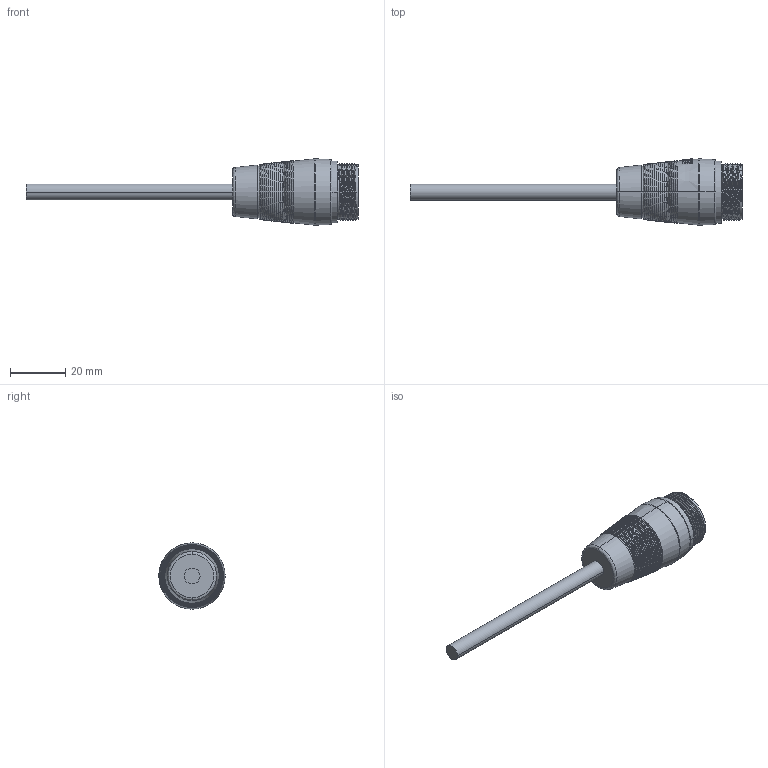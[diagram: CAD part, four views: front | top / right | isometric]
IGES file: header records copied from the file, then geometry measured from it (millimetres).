
Start section:  PTC IGES file: 1cd-07bmmm-sl6axx.igs
Global section: file name: 1cd-07bmmm-sl6axx.igs; native system: Creo Parametric by Parametric Technology Corporation; preprocessor: 2017170; author: L210025; organization: Unknown; date: 20210715.151649; units: millimetre
Bounding box: 120.5 x 24.1 x 24.08 mm (x, y, z)
Volume: 16792.5 mm3; surface area: 6181.6 mm2
Topology: 1 solids, 1 shells, 295 faces, 744 edges, 452 vertices
Faces by surface type: revolution 150, bspline 89, extrusion 56
